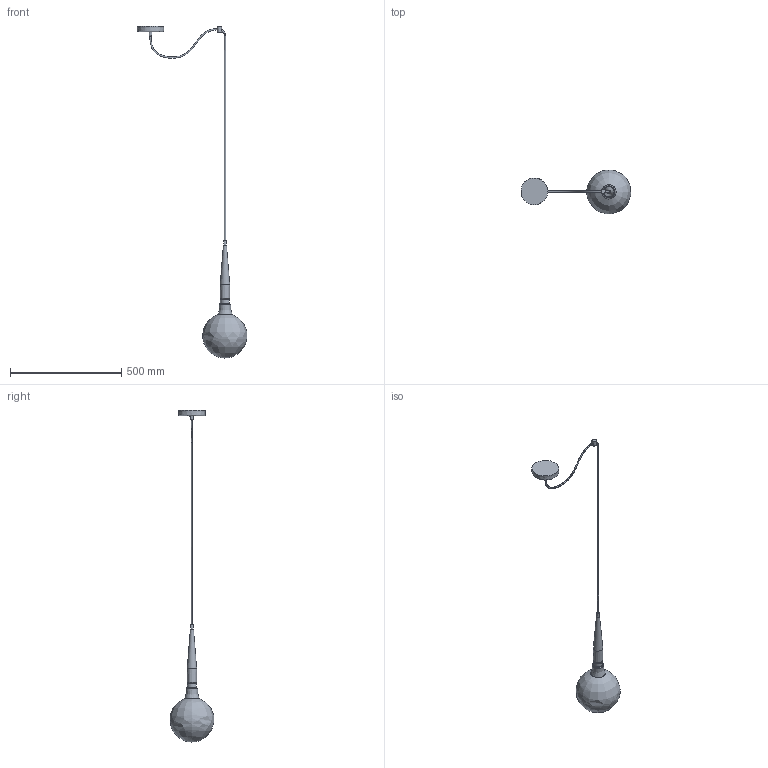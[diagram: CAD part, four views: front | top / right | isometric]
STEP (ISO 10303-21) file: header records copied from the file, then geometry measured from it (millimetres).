
FILE_DESCRIPTION(/* description */ (''),/* implementation_level */ '2;1');
FILE_NAME(/* name */ '1601_singola',/* time_stamp */ '2021-03-15T11:41:15+01:00',/* author */ (''),/* organization */ (''),/* preprocessor_version */ 'ST-DEVELOPER v16.5',/* originating_system */ '',/* authorisation */ '');
FILE_SCHEMA (('CONFIG_CONTROL_DESIGN'));
Length unit declared in the file: millimetre
Products named in the file (1): Document
Bounding box: 494.38 x 197.57 x 1492.56 mm (x, y, z)
Volume: 4853694 mm3; surface area: 224320.9 mm2
Topology: 7 solids, 11 shells, 26 faces, 43 edges, 28 vertices
Faces by surface type: bspline 13, plane 11, cylinder 2
Full cylindrical faces by diameter (mm): 6 x1, 40 x1
Entity records: 2083 total; most frequent: CARTESIAN_POINT 1674, ORIENTED_EDGE 84, EDGE_CURVE 45, VERTEX_POINT 35, ADVANCED_FACE 26, FACE_OUTER_BOUND 26, EDGE_LOOP 26, DIRECTION 19
